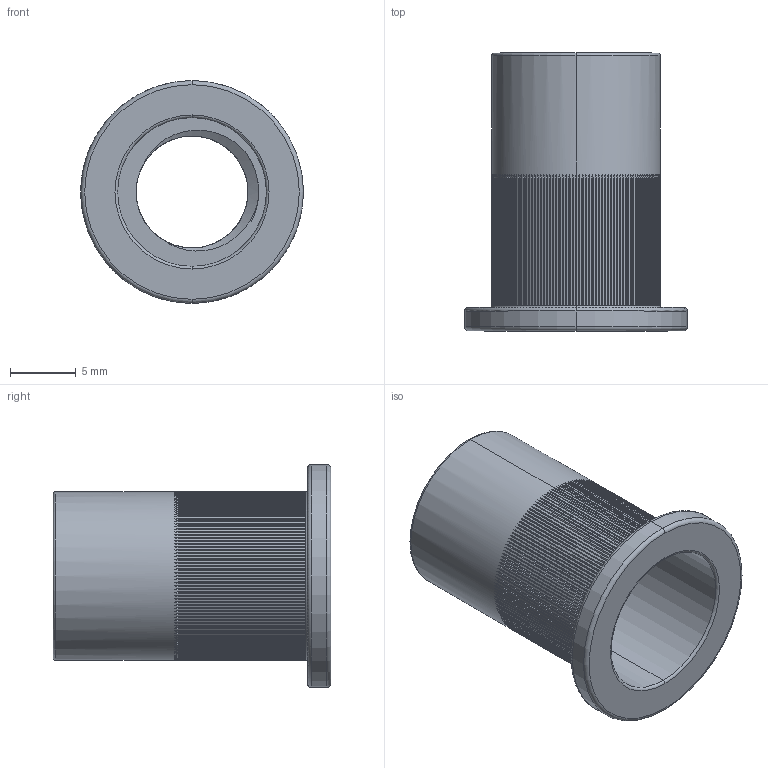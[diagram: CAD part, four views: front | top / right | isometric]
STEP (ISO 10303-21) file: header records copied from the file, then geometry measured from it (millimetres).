
FILE_DESCRIPTION (( 'STEP AP203' ), '1' );
FILE_NAME ('TANR-304-M10.STEP', '2026-08-24T08:47:58', ( '' ), ( '' ), 'SwSTEP 2.0', 'SolidWorks 2020', '' );
FILE_SCHEMA (( 'CONFIG_CONTROL_DESIGN' ));
Products named in the file (1): TANR-304-M10
Bounding box: 16.9 x 21.1 x 16.9 mm (x, y, z)
Volume: 1152.9 mm3; surface area: 2114.9 mm2
Topology: 1 solids, 1 shells, 1802 faces, 4539 edges, 2741 vertices
Faces by surface type: cone 1043, plane 724, cylinder 22, torus 10, bspline 3
Entity records: 57213 total; most frequent: CARTESIAN_POINT 16613, ORIENTED_EDGE 9078, DIRECTION 7570, EDGE_CURVE 4539, VERTEX_POINT 2741, AXIS2_PLACEMENT_3D 2713, VECTOR 2144, LINE 2144
